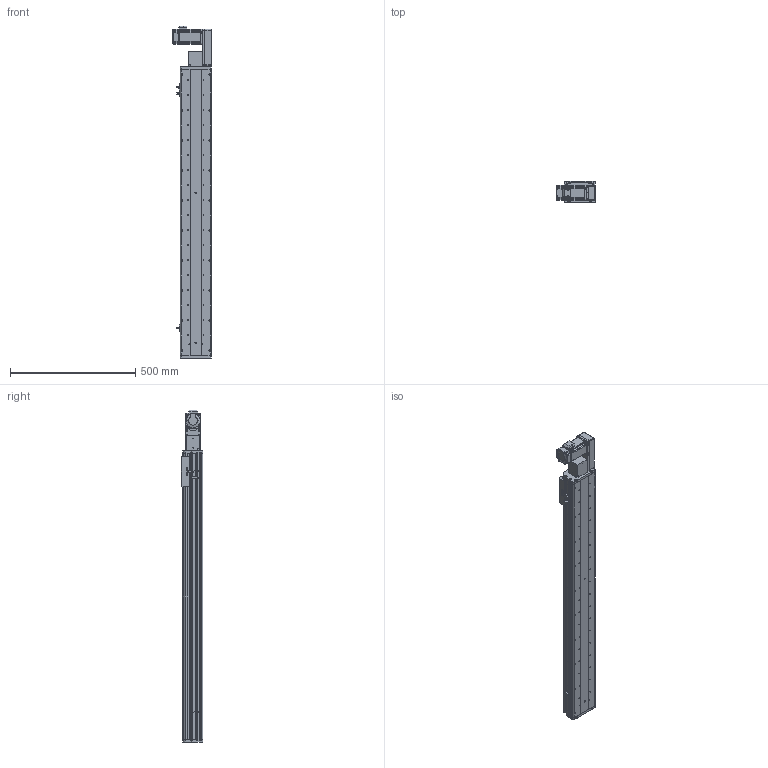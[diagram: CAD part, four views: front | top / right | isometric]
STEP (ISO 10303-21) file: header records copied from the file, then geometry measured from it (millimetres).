
FILE_DESCRIPTION (( 'STEP AP214' ), '1' );
FILE_NAME ('KSD125B-S950-MLB-CM.STEP', '2017-10-21T01:52:27', ( '微软用户' ), ( '微软中国' ), 'SwSTEP 2.0', 'SolidWorks 2014', '' );
FILE_SCHEMA (( 'AUTOMOTIVE_DESIGN' ));
Length unit declared in the file: millimetre
Products named in the file (17): KSD125B-S950-MLB-CM; 悵誘欶奻狟殏; HTPA30S3M150_A_H6_a佪裝蚚; HTPA30S3M150_A_H6_a萇儂蚚; 100宽马达安装板连板上下折丝杆同步带; 100宽马达安装板同步带左; KSD125模组950行程同步带-防尘盖; 125模组950行程同步带-底板; MHMD042G1CA_2_03; KSD125模组同步带-防撞垫2; 覜茼え68遵圉猾敕; U倰嫖萇假蚾璃; U倰嫖萇EEㄜSX672; KSD125模组同步带-防撞垫1; 前端板-125宽模组同步带; 125模组同步带-尾端板1; KSD125模组同步带-滑动座1
Assembly tree (20 placements, depth 2):
  KSD125B-S950-MLB-CM
    KSD125模组同步带-滑动座1
    125模组同步带-尾端板1
    前端板-125宽模组同步带
    KSD125模组同步带-防撞垫1
    U倰嫖萇EEㄜSX672  x3
    U倰嫖萇假蚾璃  x3
    覜茼え68遵圉猾敕
    KSD125模组同步带-防撞垫2
    MHMD042G1CA_2_03
    125模组950行程同步带-底板
    KSD125模组950行程同步带-防尘盖
    100宽马达安装板同步带左
    100宽马达安装板连板上下折丝杆同步带
    HTPA30S3M150_A_H6_a萇儂蚚
    HTPA30S3M150_A_H6_a佪裝蚚
    悵誘欶奻狟殏
Bounding box: 155 x 86 x 1328 mm (x, y, z)
Volume: 3791744.7 mm3; surface area: 1278728.7 mm2
Topology: 19 solids, 22 shells, 2307 faces, 6685 edges, 4418 vertices
Faces by surface type: cylinder 1452, plane 728, cone 105, bspline 22
Entity records: 82151 total; most frequent: CARTESIAN_POINT 16215, DIRECTION 12770, ORIENTED_EDGE 11890, EDGE_CURVE 6023, AXIS2_PLACEMENT_3D 4941, VERTEX_POINT 4010, VECTOR 2888, LINE 2888
